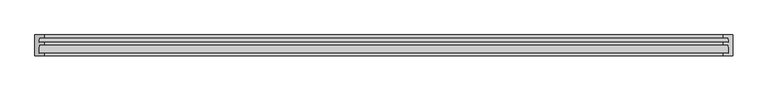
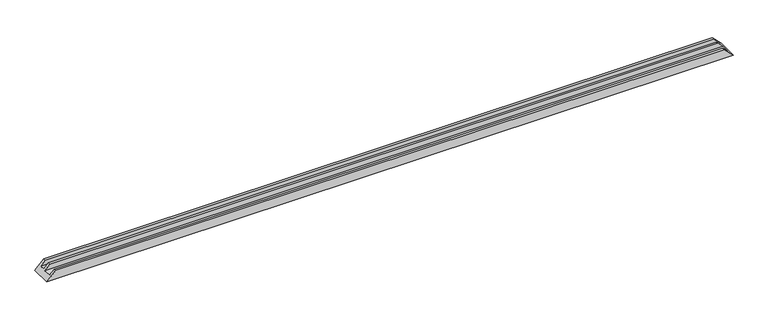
"""IFC4 building model written with IfcOpenShell, lengths in millimetres: proxy geometry, Weiku - Montante - Caixilho triplo 02.2.01.004 : Weiku - Montante - Caixilho triplo 02.2.01.004."""

from ifc_helpers import new_model, si_unit, origin, place, context, project, spatial, faceted_brep, source, transform, mapped, element, save


def generic_models_b6fd6ad8(model_context):
    return source(origin(), model_context, "Body", "Brep", [
        faceted_brep([(-1969.0, 15.0, 26.0), (-1943.0, 15.0, 52.0), (1943.0, 15.0, 52.0), (1969.0, 15.0, 26.0), (-1971.2229744, 62.0, 23.7770256), (1971.2229744, 62.0, 23.7770256), (-1943.0, 62.0, 52.0), (1943.0, 62.0, 52.0), (-1943.0, 77.0, 52.0), (1943.0, 77.0, 52.0), (-1969.0, 77.0, 26.0), (1969.0, 77.0, 26.0), (-1995.0, 119.0, 0.0), (1995.0, 119.0, 0.0), (1995.0, 0.0, 0.0), (-1995.0, 0.0, 0.0), (1943.0, 0.0, 52.0), (-1943.0, 0.0, 52.0), (-1970.2770279, 104.0, 24.7229721), (-1943.0, 104.0, 52.0), (-1943.0, 119.0, 52.0), (1943.0, 119.0, 52.0), (1943.0, 104.0, 52.0), (1970.2770279, 104.0, 24.7229721)], [[[0, 1, 2, 3]], [[4, 0, 3, 5]], [[6, 4, 5, 7]], [[8, 6, 7, 9]], [[10, 8, 9, 11]], [[12, 13, 14, 15]], [[15, 14, 16, 17]], [[1, 17, 16, 2]], [[1, 0, 4, 6, 8, 10, 18, 19, 20, 12, 15, 17]], [[3, 2, 16, 14, 13, 21, 22, 23, 11, 9, 7, 5]], [[18, 10, 11, 23]], [[19, 18, 23, 22]], [[20, 19, 22, 21]], [[13, 12, 20, 21]]]),
    ])


if __name__ == "__main__":
    model = new_model("IFC4")
    model_context = context("Model", 3, world=origin())
    ifc_project = project(units=[si_unit("LENGTHUNIT", "METRE", prefix="MILLI")], contexts=[model_context])
    site = spatial("IfcSite", under=ifc_project)
    building = spatial("IfcBuilding", under=site)
    placement = place(None, origin())
    generic_models_shape = generic_models_b6fd6ad8(model_context)
    element("IfcBuildingElementProxy", 1, Name="Weiku - Montante - Caixilho triplo 02.2.01.004 : Weiku - Montante - Caixilho triplo 02.2.01.004", ObjectType="Weiku - Montante - Caixilho triplo 02.2.01.004 : Weiku - Montante - Caixilho triplo 02.2.01.004", at=placement, inside=building, context=model_context, shape_type="MappedRepresentation", body=[
        mapped(generic_models_shape, transform((0.0, 0.0, 0.0), x_axis=(1.0, 0.0, 0.0), y_axis=(0.0, 1.0, 0.0), z_axis=(0.0, 0.0, 1.0))),
    ])
    save(model, "model.ifc")
